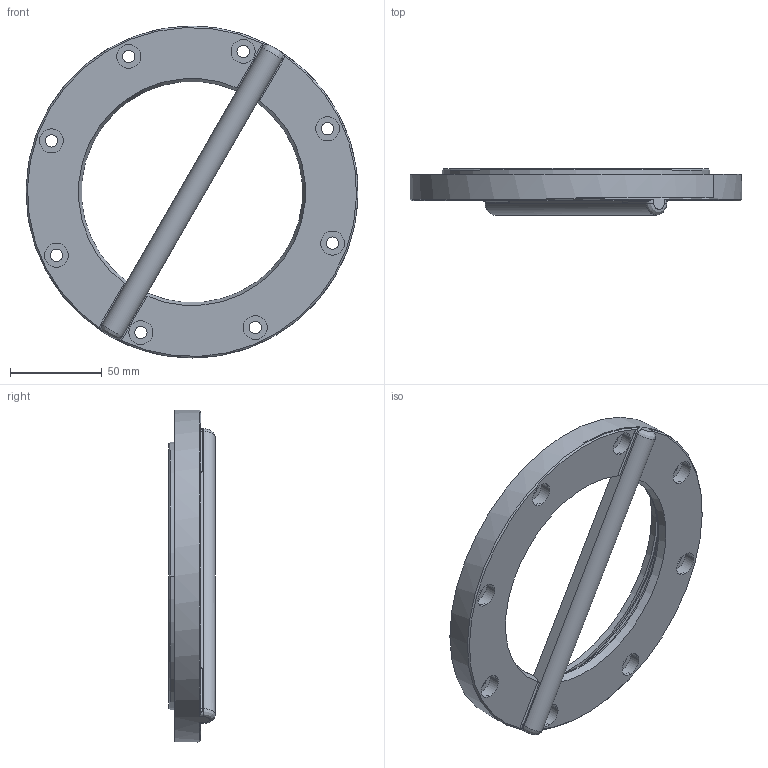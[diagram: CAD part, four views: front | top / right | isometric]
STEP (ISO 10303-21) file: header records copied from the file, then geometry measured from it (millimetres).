
FILE_DESCRIPTION((''),'2;1');
FILE_NAME('SAT-P-002-R0','2015-06-16T',('thm5'),(''),'PRO/ENGINEER BY PARAMETRIC TECHNOLOGY CORPORATION, 2010280','PRO/ENGINEER BY PARAMETRIC TECHNOLOGY CORPORATION, 2010280','');
FILE_SCHEMA(('CONFIG_CONTROL_DESIGN'));
Length unit declared in the file: inch
Products named in the file (1): SAT-P-002-R0
Bounding box: 180.95 x 25.39 x 180.97 mm (x, y, z)
Volume: 190549.9 mm3; surface area: 54916.1 mm2
Topology: 1 solids, 1 shells, 84 faces, 240 edges, 168 vertices
Faces by surface type: cylinder 53, plane 17, cone 6, torus 6, bspline 2
Entity records: 3162 total; most frequent: CARTESIAN_POINT 772, DIRECTION 518, ORIENTED_EDGE 480, EDGE_CURVE 240, AXIS2_PLACEMENT_3D 216, VERTEX_POINT 168, CIRCLE 134, EDGE_LOOP 114
